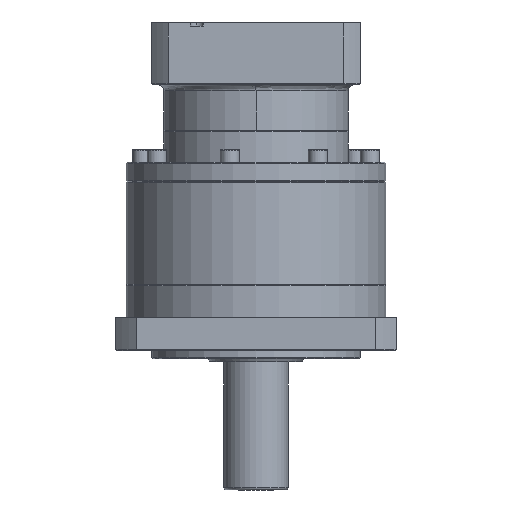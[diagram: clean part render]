
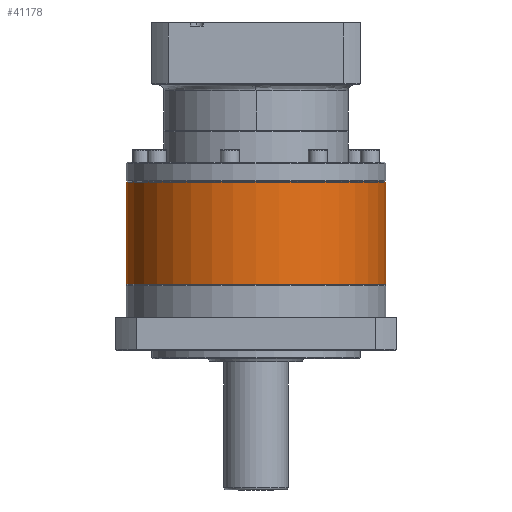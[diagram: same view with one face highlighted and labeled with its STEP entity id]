
A CAD part, front view. The second image highlights one B-rep face of the part: STEP entity #41178.
In plain terms, the highlighted cylindrical face has radius 81 mm (diameter 162 mm), a partial arc.
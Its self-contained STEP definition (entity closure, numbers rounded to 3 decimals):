
#1594 = VERTEX_POINT ( 'NONE', #106764 ) ;
#8844 = DIRECTION ( 'NONE',  ( 0., 0., -1. ) ) ;
#12534 = DIRECTION ( 'NONE',  ( -1., 0., 0. ) ) ;
#13502 = CARTESIAN_POINT ( 'NONE',  ( -135.318, 81.564, -170.691 ) ) ;
#19724 = AXIS2_PLACEMENT_3D ( 'NONE', #13502, #56814, #12534 ) ;
#20876 = FACE_OUTER_BOUND ( 'NONE', #146237, .T. ) ;
#22731 = CARTESIAN_POINT ( 'NONE',  ( -216.318, 81.564, -107.191 ) ) ;
#26004 = CARTESIAN_POINT ( 'NONE',  ( -216.318, 81.564, -170.691 ) ) ;
#26641 = DIRECTION ( 'NONE',  ( 0., 0., -1. ) ) ;
#26729 = CARTESIAN_POINT ( 'NONE',  ( -135.318, 81.564, -107.191 ) ) ;
#30432 = CIRCLE ( 'NONE', #19724, 81. ) ;
#31291 = EDGE_CURVE ( 'NONE', #135150, #1594, #30432, .T. ) ;
#33210 = ORIENTED_EDGE ( 'NONE', *, *, #31291, .T. ) ;
#39003 = CARTESIAN_POINT ( 'NONE',  ( -216.318, 81.564, -106.691 ) ) ;
#41178 = ADVANCED_FACE ( 'NONE', ( #20876 ), #117735, .T. ) ;
#47004 = DIRECTION ( 'NONE',  ( 0., 0., -1. ) ) ;
#56814 = DIRECTION ( 'NONE',  ( 0., 0., 1. ) ) ;
#57594 = ORIENTED_EDGE ( 'NONE', *, *, #62241, .T. ) ;
#58743 = CARTESIAN_POINT ( 'NONE',  ( -135.318, 81.564, -106.691 ) ) ;
#62241 = EDGE_CURVE ( 'NONE', #68181, #135150, #90335, .T. ) ;
#66604 = EDGE_CURVE ( 'NONE', #117868, #68181, #99118, .T. ) ;
#68181 = VERTEX_POINT ( 'NONE', #22731 ) ;
#70835 = CARTESIAN_POINT ( 'NONE',  ( -54.318, 81.564, -107.191 ) ) ;
#71342 = CARTESIAN_POINT ( 'NONE',  ( -54.318, 81.564, -106.691 ) ) ;
#79293 = EDGE_CURVE ( 'NONE', #117868, #1594, #92724, .T. ) ;
#82275 = DIRECTION ( 'NONE',  ( -1., 0., 0. ) ) ;
#87620 = AXIS2_PLACEMENT_3D ( 'NONE', #26729, #127675, #82275 ) ;
#90335 = LINE ( 'NONE', #39003, #97381 ) ;
#90979 = AXIS2_PLACEMENT_3D ( 'NONE', #58743, #47004, #103112 ) ;
#92724 = LINE ( 'NONE', #71342, #96244 ) ;
#96244 = VECTOR ( 'NONE', #26641, 1000. ) ;
#97381 = VECTOR ( 'NONE', #8844, 1000. ) ;
#99118 = CIRCLE ( 'NONE', #87620, 81. ) ;
#103112 = DIRECTION ( 'NONE',  ( -1., 0., 0. ) ) ;
#106764 = CARTESIAN_POINT ( 'NONE',  ( -54.318, 81.564, -170.691 ) ) ;
#117735 = CYLINDRICAL_SURFACE ( 'NONE', #90979, 81. ) ;
#117868 = VERTEX_POINT ( 'NONE', #70835 ) ;
#122741 = ORIENTED_EDGE ( 'NONE', *, *, #66604, .T. ) ;
#127675 = DIRECTION ( 'NONE',  ( 0., 0., -1. ) ) ;
#128437 = ORIENTED_EDGE ( 'NONE', *, *, #79293, .F. ) ;
#135150 = VERTEX_POINT ( 'NONE', #26004 ) ;
#146237 = EDGE_LOOP ( 'NONE', ( #128437, #122741, #57594, #33210 ) ) ;
